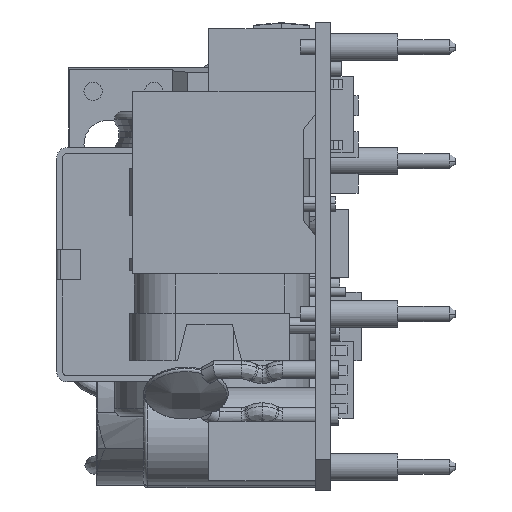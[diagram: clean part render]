
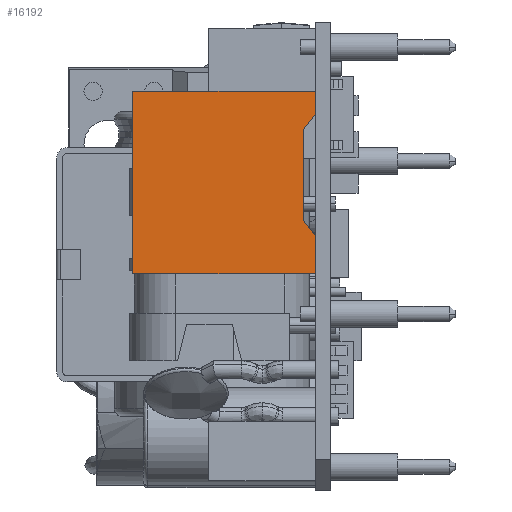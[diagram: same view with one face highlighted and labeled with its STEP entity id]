
A CAD part, left-side view. The second image highlights one B-rep face of the part: STEP entity #16192.
In plain terms, the highlighted planar face has unit normal (-1, 0, 0).
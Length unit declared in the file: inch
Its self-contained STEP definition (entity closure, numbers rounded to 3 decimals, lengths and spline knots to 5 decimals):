
#208 = VECTOR ( 'NONE', #12733, 39.37008 ) ;
#297 = CARTESIAN_POINT ( 'NONE',  ( 1.49197, 0.03937, -4.54803 ) ) ;
#390 = CARTESIAN_POINT ( 'NONE',  ( 1.49197, 0.51181, -4.64646 ) ) ;
#802 = VECTOR ( 'NONE', #49101, 39.37008 ) ;
#2980 = LINE ( 'NONE', #30696, #36219 ) ;
#3195 = CARTESIAN_POINT ( 'NONE',  ( 1.49197, 0.03937, -4.54803 ) ) ;
#3640 = VERTEX_POINT ( 'NONE', #33800 ) ;
#4019 = VECTOR ( 'NONE', #6896, 39.37008 ) ;
#4844 = CARTESIAN_POINT ( 'NONE',  ( 1.49197, 0.51181, -4.17402 ) ) ;
#5779 = AXIS2_PLACEMENT_3D ( 'NONE', #40493, #14620, #44780 ) ;
#6896 = DIRECTION ( 'NONE',  ( 0., 0., 1. ) ) ;
#7006 = LINE ( 'NONE', #55644, #208 ) ;
#8626 = FACE_OUTER_BOUND ( 'NONE', #12826, .T. ) ;
#8671 = EDGE_CURVE ( 'NONE', #36367, #37707, #2980, .T. ) ;
#9910 = VERTEX_POINT ( 'NONE', #4844 ) ;
#10057 = VECTOR ( 'NONE', #43410, 39.37008 ) ;
#11487 = EDGE_CURVE ( 'NONE', #36367, #9910, #7006, .T. ) ;
#11786 = ORIENTED_EDGE ( 'NONE', *, *, #24545, .T. ) ;
#12733 = DIRECTION ( 'NONE',  ( 0., 1., 0. ) ) ;
#12826 = EDGE_LOOP ( 'NONE', ( #41165, #33555, #11786, #41176, #46624, #51102, #21853, #14376 ) ) ;
#14304 = DIRECTION ( 'NONE',  ( 0., 0., -1. ) ) ;
#14376 = ORIENTED_EDGE ( 'NONE', *, *, #43042, .T. ) ;
#14620 = DIRECTION ( 'NONE',  ( 1., 0., 0. ) ) ;
#14792 = DIRECTION ( 'NONE',  ( 0., 0., 1. ) ) ;
#15616 = LINE ( 'NONE', #49916, #4019 ) ;
#15790 = LINE ( 'NONE', #24334, #38751 ) ;
#15900 = LINE ( 'NONE', #49243, #48904 ) ;
#16192 = ADVANCED_FACE ( 'NONE', ( #8626 ), #48893, .F. ) ;
#21853 = ORIENTED_EDGE ( 'NONE', *, *, #31394, .F. ) ;
#21931 = VERTEX_POINT ( 'NONE', #30017 ) ;
#22278 = VECTOR ( 'NONE', #24713, 39.37008 ) ;
#22728 = VERTEX_POINT ( 'NONE', #47714 ) ;
#22760 = EDGE_CURVE ( 'NONE', #46449, #3640, #53195, .T. ) ;
#23195 = CARTESIAN_POINT ( 'NONE',  ( 1.49197, 0.07087, -4.27244 ) ) ;
#24334 = CARTESIAN_POINT ( 'NONE',  ( 1.49197, 0.07087, -4.17402 ) ) ;
#24545 = EDGE_CURVE ( 'NONE', #21931, #37707, #35403, .T. ) ;
#24713 = DIRECTION ( 'NONE',  ( 0., 1., 0. ) ) ;
#30017 = CARTESIAN_POINT ( 'NONE',  ( 1.49197, 0.07087, -4.27244 ) ) ;
#30592 = DIRECTION ( 'NONE',  ( 0., 0., -1. ) ) ;
#30696 = CARTESIAN_POINT ( 'NONE',  ( 1.49197, 0.03937, -4.17402 ) ) ;
#31394 = EDGE_CURVE ( 'NONE', #22728, #41140, #55164, .T. ) ;
#33555 = ORIENTED_EDGE ( 'NONE', *, *, #45435, .F. ) ;
#33800 = CARTESIAN_POINT ( 'NONE',  ( 1.49197, 0.07087, -4.50866 ) ) ;
#35403 = LINE ( 'NONE', #23195, #802 ) ;
#35438 = EDGE_CURVE ( 'NONE', #41140, #9910, #15900, .T. ) ;
#36219 = VECTOR ( 'NONE', #30592, 39.37008 ) ;
#36367 = VERTEX_POINT ( 'NONE', #36725 ) ;
#36725 = CARTESIAN_POINT ( 'NONE',  ( 1.49197, 0.03937, -4.17402 ) ) ;
#37707 = VERTEX_POINT ( 'NONE', #38245 ) ;
#38245 = CARTESIAN_POINT ( 'NONE',  ( 1.49197, 0.03937, -4.23307 ) ) ;
#38751 = VECTOR ( 'NONE', #14304, 39.37008 ) ;
#40493 = CARTESIAN_POINT ( 'NONE',  ( 1.49197, 0.51181, -4.17402 ) ) ;
#41140 = VERTEX_POINT ( 'NONE', #390 ) ;
#41165 = ORIENTED_EDGE ( 'NONE', *, *, #22760, .T. ) ;
#41176 = ORIENTED_EDGE ( 'NONE', *, *, #8671, .F. ) ;
#43042 = EDGE_CURVE ( 'NONE', #22728, #46449, #15616, .T. ) ;
#43410 = DIRECTION ( 'NONE',  ( 0., 0.625, 0.781 ) ) ;
#44780 = DIRECTION ( 'NONE',  ( 0., 0., -1. ) ) ;
#45435 = EDGE_CURVE ( 'NONE', #21931, #3640, #15790, .T. ) ;
#46449 = VERTEX_POINT ( 'NONE', #3195 ) ;
#46624 = ORIENTED_EDGE ( 'NONE', *, *, #11487, .T. ) ;
#47714 = CARTESIAN_POINT ( 'NONE',  ( 1.49197, 0.03937, -4.64646 ) ) ;
#48893 = PLANE ( 'NONE',  #5779 ) ;
#48904 = VECTOR ( 'NONE', #14792, 39.37008 ) ;
#49101 = DIRECTION ( 'NONE',  ( 0., -0.625, 0.781 ) ) ;
#49243 = CARTESIAN_POINT ( 'NONE',  ( 1.49197, 0.51181, -4.17402 ) ) ;
#49916 = CARTESIAN_POINT ( 'NONE',  ( 1.49197, 0.03937, -3.99492 ) ) ;
#51102 = ORIENTED_EDGE ( 'NONE', *, *, #35438, .F. ) ;
#53195 = LINE ( 'NONE', #297, #10057 ) ;
#55072 = CARTESIAN_POINT ( 'NONE',  ( 1.49197, 0.51181, -4.64646 ) ) ;
#55164 = LINE ( 'NONE', #55072, #22278 ) ;
#55644 = CARTESIAN_POINT ( 'NONE',  ( 1.49197, 0.51181, -4.17402 ) ) ;
